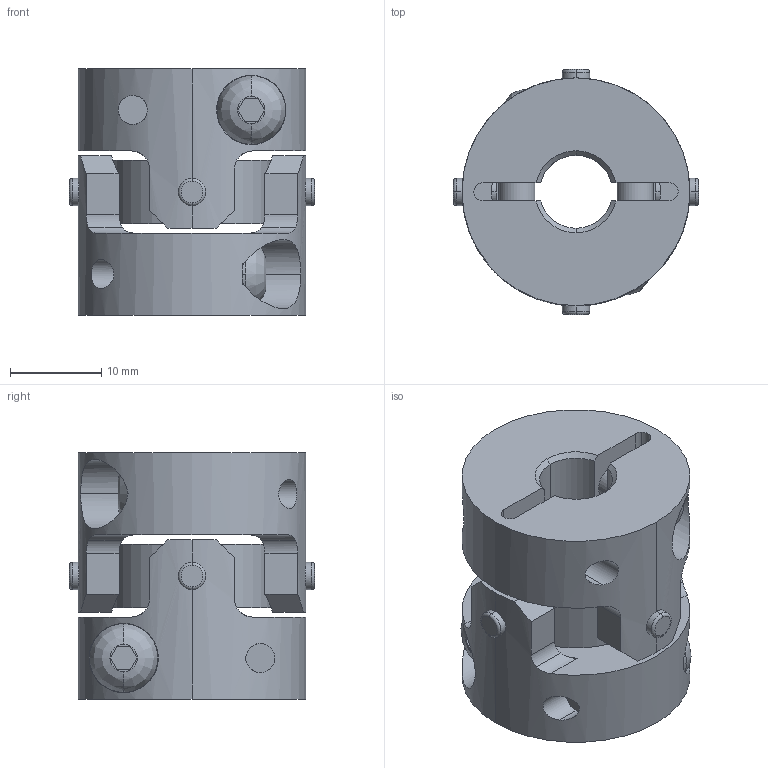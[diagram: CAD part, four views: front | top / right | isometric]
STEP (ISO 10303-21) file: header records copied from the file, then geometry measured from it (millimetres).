
FILE_DESCRIPTION((''),'2;1');
FILE_NAME('UA-25C-8×10.stp','2013-05-16T09:31:49',(''),(''),'AutoCAD STEP 2000i','AutoCAD 2000i',', , ');
FILE_SCHEMA(('CONFIG_CONTROL_DESIGN'));
Length unit declared in the file: millimetre
Products named in the file (7): UA-25C-5×9; 忣兜1; UA-2502-D09; BTN-M4; UA-2502-D05-1; UA-2502-D05; UA25-SEN
Assembly tree (8 placements, depth 3):
  UA-25C-5×9
    忣兜1
    UA-2502-D09
      BTN-M4
    UA-2502-D05-1
      BTN-M4
    UA-2502-D05
      BTN-M4
    UA25-SEN
Bounding box: 26.89 x 26.89 x 27 mm (x, y, z)
Volume: 8901.4 mm3; surface area: 6359.9 mm2
Topology: 1 solids, 1 shells, 208 faces, 562 edges, 368 vertices
Faces by surface type: cylinder 96, plane 80, cone 16, bspline 8, torus 8
Entity records: 8385 total; most frequent: CARTESIAN_POINT 2983, ORIENTED_EDGE 1124, DIRECTION 1084, EDGE_CURVE 562, AXIS2_PLACEMENT_3D 417, VERTEX_POINT 368, VECTOR 250, LINE 250
